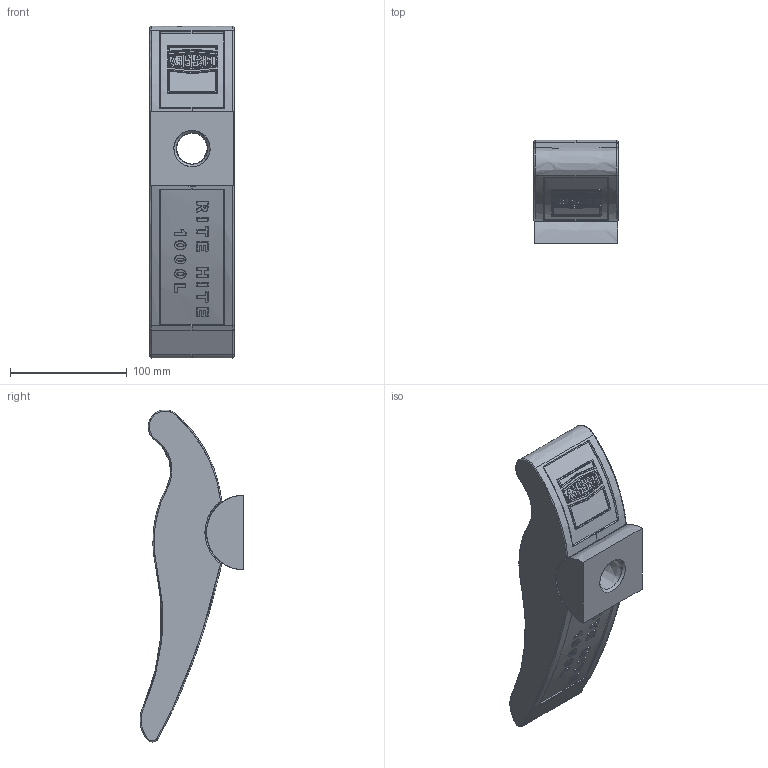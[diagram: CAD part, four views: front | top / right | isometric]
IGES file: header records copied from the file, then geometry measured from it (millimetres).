
Start section: ZWSOFT
Global section: file name: 1000L.igs; native system: ZW3D; preprocessor: 1.0; author: ZW3D; organization: ZWSOFT; date: 121122.100747; units: millimetre
Bounding box: 72 x 88.97 x 284.5 mm (x, y, z)
Surface area: 90970.9 mm2 (no closed solid volume)
Topology: 0 solids, 0 shells, 660 faces, 4319 edges, 4813 vertices
Faces by surface type: bspline 660
